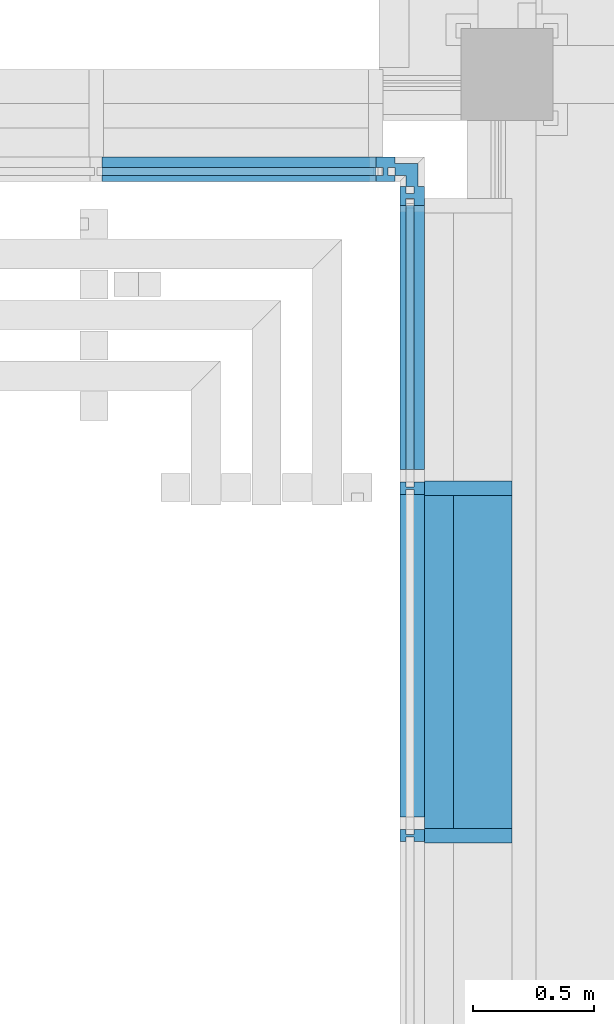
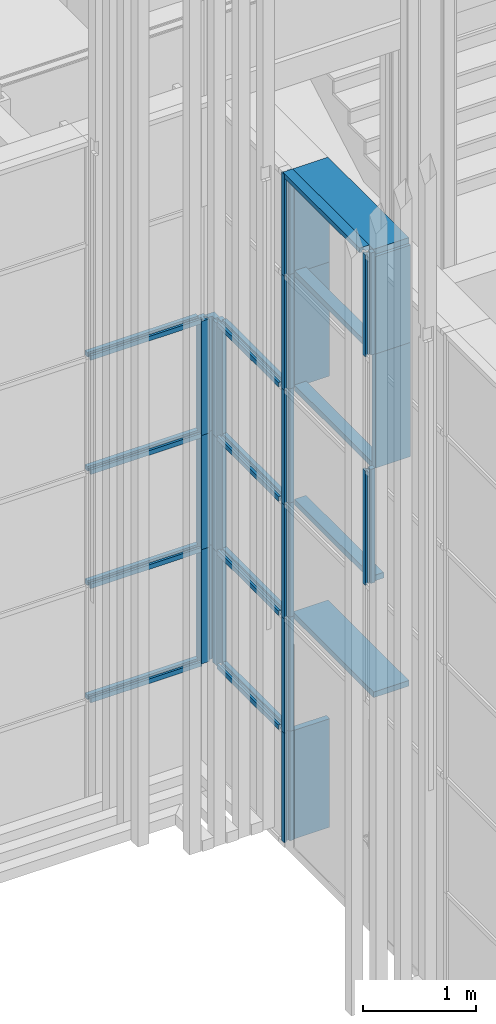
# One storey, part 21 of 260: 30 members, 2 elements without a shape of their own.
"""IFC2X3 building model written with IfcOpenShell, lengths in millimetres."""

import ifcopenshell
import ifcopenshell.guid

model = None  # the IFC model being written
_history = None  # IfcOwnerHistory: only IFC2X3 demands one
_inside = {}  # id of a spatial element -> (the spatial element, [elements in it])
_under = {}  # id of a project, library or spatial element -> (it, [spatial elements below it])
_declared = {}  # id of a project -> (the project, [libraries it declares])
_typed = {}  # id of a type object -> (the type object, [elements of that type])
_made_of = {}  # id of a material, layer set ... -> (it, [elements and type objects made of it])


def new_model(schema):
    """Start an empty IFC model of exactly this schema.

    Asked for "IFC4X3", IfcOpenShell would pick the latest addendum, in which some entities
    have other attributes; the version numbers below select the first issue.
    IFC2X3 requires an IfcOwnerHistory on every rooted entity: one is made here for all.
    """
    global model, _history
    if schema == "IFC4X3":
        model = ifcopenshell.file(schema_version=(4, 3, 0, 0))
    else:
        model = ifcopenshell.file(schema=schema)
    _inside.clear()
    _under.clear()
    _declared.clear()
    _typed.clear()
    _made_of.clear()
    _history = None
    if model.schema == "IFC2X3":
        org = make("IfcOrganization", Name="unknown")
        user = make(
            "IfcPersonAndOrganization",
            ThePerson=make("IfcPerson", FamilyName="unknown"),
            TheOrganization=org,
        )
        app = make(
            "IfcApplication",
            ApplicationDeveloper=org,
            Version="unknown",
            ApplicationFullName="unknown",
            ApplicationIdentifier="unknown",
        )
        _history = make(
            "IfcOwnerHistory",
            OwningUser=user,
            OwningApplication=app,
            ChangeAction="ADDED",
            CreationDate=0,
        )
    return model


def make(cls, **values):
    """One entity of the class cls with the attributes given. An attribute that is None is left unset."""
    return model.create_entity(
        cls, **{name: value for name, value in values.items() if value is not None}
    )


def entity(cls, *values):
    """Any entity or typed value of the class cls, its attributes in the order of the schema. None: left unset."""
    e = model.create_entity(cls)
    for i, value in enumerate(values):
        if value is not None:
            e[i] = value
    return e


def rooted(cls, **values):
    """An entity with a GlobalId (a new one), such as an element, a storey or a relation."""
    return make(cls, GlobalId=ifcopenshell.guid.new(), OwnerHistory=_history, **values)


def si_unit(unit_type, name, prefix=None):
    """IfcSIUnit, for example si_unit("LENGTHUNIT", "METRE", prefix="MILLI")."""
    return make("IfcSIUnit", UnitType=unit_type, Prefix=prefix, Name=name)


def converted_unit(unit_type, name, factor, base, dimensions=None, offset=None):
    """IfcConversionBasedUnit, such as the inch: factor (a typed value) times the base unit."""
    return make(
        "IfcConversionBasedUnit"
        if offset is None
        else "IfcConversionBasedUnitWithOffset",
        ConversionOffset=offset,
        Dimensions=None
        if dimensions is None
        else entity("IfcDimensionalExponents", *dimensions),
        UnitType=unit_type,
        Name=name,
        ConversionFactor=make(
            "IfcMeasureWithUnit", ValueComponent=factor, UnitComponent=base
        ),
    )


def derived_unit(unit_type, elements):
    """IfcDerivedUnit: a product of units, each with its exponent."""
    return make(
        "IfcDerivedUnit",
        Elements=[
            make("IfcDerivedUnitElement", Unit=unit, Exponent=power)
            for unit, power in elements
        ],
        UnitType=unit_type,
    )


def money_unit(currency):
    """IfcMonetaryUnit."""
    return make("IfcMonetaryUnit", Currency=currency)


def assignment(units):
    """IfcUnitAssignment: the units of a project."""
    return None if units is None else make("IfcUnitAssignment", Units=units)


def point(xyz):
    """IfcCartesianPoint."""
    return None if xyz is None else make("IfcCartesianPoint", Coordinates=xyz)


def direction(xyz):
    """IfcDirection."""
    return None if xyz is None else make("IfcDirection", DirectionRatios=xyz)


def frame(location, z_axis=None, x_axis=None):
    """IfcAxis2Placement3D, a coordinate frame: its origin and axes. An axis left out is left unset."""
    return make(
        "IfcAxis2Placement3D",
        Location=point(location),
        Axis=direction(z_axis),
        RefDirection=direction(x_axis),
    )


def origin_with_axes():
    """The frame at (0, 0, 0) with the z axis (0, 0, 1) and the x axis (1, 0, 0) written out."""
    return frame((0.0, 0.0, 0.0), z_axis=(0.0, 0.0, 1.0), x_axis=(1.0, 0.0, 0.0))


def place(relative_to, where):
    """IfcLocalPlacement: puts the frame where relative to a parent placement (None: the world)."""
    return make(
        "IfcLocalPlacement", PlacementRelTo=relative_to, RelativePlacement=where
    )


def context(
    kind, dimensions, precision=None, world=None, true_north=None, identifier=None
):
    """IfcGeometricRepresentationContext, for example the 3D "Model" context."""
    return make(
        "IfcGeometricRepresentationContext",
        ContextIdentifier=identifier,
        ContextType=kind,
        CoordinateSpaceDimension=dimensions,
        Precision=precision,
        WorldCoordinateSystem=world,
        TrueNorth=true_north,
    )


def subcontext(parent, identifier, kind, view, scale=None):
    """IfcGeometricRepresentationSubContext, for example "Body" below "Model"."""
    return make(
        "IfcGeometricRepresentationSubContext",
        ContextIdentifier=identifier,
        ContextType=kind,
        ParentContext=parent,
        TargetScale=scale,
        TargetView=view,
    )


def project(units=None, contexts=None):
    """IfcProject with its units and contexts."""
    return rooted(
        "IfcProject",
        Name="project",
        RepresentationContexts=contexts,
        UnitsInContext=assignment(units),
    )


def spatial(cls, under=None, at=None, **own):
    """A site, building, storey or space (cls), placed at a placement, below another one or the project."""
    s = rooted(cls, ObjectPlacement=at, **own)
    if under is not None:
        _under.setdefault(under.id(), (under, []))[1].append(s)
    return s


def faces_of(points, faces, orient=None, outer=None):
    """IfcFace entities. A face is a list of loops; a loop is a list of indices into points, from 0.

    orient and outer hold one flag for each loop. By default every Orientation is true, the
    first loop of a face is its IfcFaceOuterBound and the others are IfcFaceBound.
    """
    made = []
    for i, loops in enumerate(faces):
        bounds = []
        for j, loop in enumerate(loops):
            is_outer = j == 0 if outer is None else outer[i][j]
            bounds.append(
                make(
                    "IfcFaceOuterBound" if is_outer else "IfcFaceBound",
                    Bound=make("IfcPolyLoop", Polygon=[points[k] for k in loop]),
                    Orientation=True if orient is None else orient[i][j],
                )
            )
        made.append(make("IfcFace", Bounds=bounds))
    return made


def faceted_brep(points, faces, orient=None, outer=None, voids=None):
    """IfcFacetedBrep: a solid bounded by flat faces; with voids (closed shells), ...WithVoids."""
    shared = [point(p) for p in points]
    hull = make("IfcClosedShell", CfsFaces=faces_of(shared, faces, orient, outer))
    if voids is None:
        return make("IfcFacetedBrep", Outer=hull)
    return make(
        "IfcFacetedBrepWithVoids",
        Outer=hull,
        Voids=[
            make(cls, CfsFaces=faces_of(shared, fs, o, b)) for cls, fs, o, b in voids
        ],
    )


def shape(context_of_items, identifier, shape_type, items):
    """IfcShapeRepresentation: the items that make up one representation, for example the "Body"."""
    return make(
        "IfcShapeRepresentation",
        ContextOfItems=context_of_items,
        RepresentationIdentifier=identifier,
        RepresentationType=shape_type,
        Items=items,
    )


def source(mapping_origin, context_of_items, identifier, shape_type, items):
    """IfcRepresentationMap: a shape defined once, which mapped items show again and again."""
    return make(
        "IfcRepresentationMap",
        MappingOrigin=mapping_origin,
        MappedRepresentation=shape(context_of_items, identifier, shape_type, items),
    )


def transform(
    local_origin,
    x_axis=None,
    y_axis=None,
    z_axis=None,
    scale=None,
    scale2=None,
    scale3=None,
    uniform=True,
):
    """IfcCartesianTransformationOperator3D, or its non-uniform kind. x_axis, y_axis, z_axis: its Axis1, 2, 3."""
    if uniform:
        return make(
            "IfcCartesianTransformationOperator3D",
            Axis1=direction(x_axis),
            Axis2=direction(y_axis),
            LocalOrigin=point(local_origin),
            Scale=scale,
            Axis3=direction(z_axis),
        )
    return make(
        "IfcCartesianTransformationOperator3DnonUniform",
        Axis1=direction(x_axis),
        Axis2=direction(y_axis),
        LocalOrigin=point(local_origin),
        Scale=scale,
        Axis3=direction(z_axis),
        Scale2=scale2,
        Scale3=scale3,
    )


def mapped(mapping_source, mapping_target):
    """IfcMappedItem: shows the shape of a source again, moved by a transform."""
    return make(
        "IfcMappedItem", MappingSource=mapping_source, MappingTarget=mapping_target
    )


def material(Name=None, Category=None):
    """IfcMaterial."""
    return make("IfcMaterial", Name=Name, Category=Category)


def made_of(thing, what):
    """Note that an element or type object is made of a material, layer set ...; save() writes the relation."""
    if what is not None:
        _made_of.setdefault(what.id(), (what, []))[1].append(thing)
    return thing


def type_object(cls, material=None, **own):
    """A type object (cls), such as IfcWallType, which elements share."""
    return made_of(rooted(cls, **own), material)


def element(
    cls,
    number,
    at=None,
    inside=None,
    cuts=None,
    type_object=None,
    material=None,
    context=None,
    identifier="Body",
    shape_type=None,
    held_by="IfcProductDefinitionShape",
    body=None,
    shapes=None,
    **own,
):
    """One element of the class cls, such as IfcWall. Its Tag is "e" and its number.

    at: its placement. inside: the storey or other place that contains it. cuts: it is an
    opening in that element (IfcRelVoidsElement). A single representation is given by context,
    identifier, shape_type and body (its items); several are given by shapes. held_by: the class
    of the entity that holds the representations. save() writes the other relations.
    """
    e = rooted(cls, Tag="e%d" % number, ObjectPlacement=at, **own)
    if body is not None:
        shapes = [shape(context, identifier, shape_type, body)]
    if shapes is not None:
        e.Representation = make(held_by, Representations=shapes)
    if inside is not None:
        _inside.setdefault(inside.id(), (inside, []))[1].append(e)
    if cuts is not None:
        rooted(
            "IfcRelVoidsElement", RelatingBuildingElement=cuts, RelatedOpeningElement=e
        )
    if type_object is not None:
        _typed.setdefault(type_object.id(), (type_object, []))[1].append(e)
    return made_of(e, material)


def aggregate(whole, parts):
    """IfcRelAggregates: a whole, such as a stair, and the parts it consists of."""
    return rooted("IfcRelAggregates", RelatingObject=whole, RelatedObjects=parts)


def save(model, path):
    """Write the relations noted so far, then the file.

    IfcRelAggregates (storeys below a building ...), IfcRelContainedInSpatialStructure (elements
    in a storey), IfcRelDefinesByType, IfcRelAssociatesMaterial and IfcRelDeclares: one each for
    every whole, place, type object, material and project.
    """
    for whole, parts in _under.values():
        aggregate(whole, parts)
    for where, things in _inside.values():
        rooted(
            "IfcRelContainedInSpatialStructure",
            RelatedElements=things,
            RelatingStructure=where,
        )
    for kind, things in _typed.values():
        rooted("IfcRelDefinesByType", RelatedObjects=things, RelatingType=kind)
    for what, things in _made_of.values():
        rooted("IfcRelAssociatesMaterial", RelatedObjects=things, RelatingMaterial=what)
    for by, libraries in _declared.values():
        rooted("IfcRelDeclares", RelatingContext=by, RelatedDefinitions=libraries)
    model.write(path)


model = new_model("IFC2X3")

# Units and contexts
model_context = context("Model", 3, precision=0.01, world=origin_with_axes(), true_north=direction((0.0, 1.0)))
body_context = subcontext(model_context, "Body", "Model", "MODEL_VIEW")
ifc_project = project(units=[si_unit("LENGTHUNIT", "METRE", prefix="MILLI"), si_unit("AREAUNIT", "SQUARE_METRE"), si_unit("VOLUMEUNIT", "CUBIC_METRE"), converted_unit("PLANEANGLEUNIT", "DEGREE", entity("IfcPlaneAngleMeasure", 0.0174532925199), si_unit("PLANEANGLEUNIT", "RADIAN"), dimensions=[0, 0, 0, 0, 0, 0, 0]), money_unit("EUR"), converted_unit("TIMEUNIT", "Year", entity("IfcTimeMeasure", 31556926.0), si_unit("TIMEUNIT", "SECOND"), dimensions=[0, 0, 1, 0, 0, 0, 0]), si_unit("MASSUNIT", "GRAM", prefix="KILO"), si_unit("THERMODYNAMICTEMPERATUREUNIT", "DEGREE_CELSIUS"), si_unit("LUMINOUSINTENSITYUNIT", "LUMEN"), si_unit("ENERGYUNIT", "JOULE", prefix="MEGA"), derived_unit("THERMALCONDUCTANCEUNIT", [(si_unit("POWERUNIT", "WATT"), 1), (si_unit("LENGTHUNIT", "METRE"), -1), (si_unit("THERMODYNAMICTEMPERATUREUNIT", "KELVIN"), -1)]), derived_unit("SPECIFICHEATCAPACITYUNIT", [(si_unit("ENERGYUNIT", "JOULE"), 1), (si_unit("MASSUNIT", "GRAM", prefix="KILO"), -1), (si_unit("THERMODYNAMICTEMPERATUREUNIT", "KELVIN"), -1)]), derived_unit("MASSDENSITYUNIT", [(si_unit("MASSUNIT", "GRAM", prefix="KILO"), 1), (si_unit("VOLUMEUNIT", "CUBIC_METRE"), -1)])], contexts=[model_context])

# Site, building, storey
site_placement = place(None, origin_with_axes())
site = spatial("IfcSite", under=ifc_project, at=site_placement, Name="Kolde pst 67a", CompositionType="ELEMENT")
building_placement = place(site_placement, origin_with_axes())
building = spatial("IfcBuilding", under=site, at=building_placement, Name="Riigigümnaasium", CompositionType="ELEMENT")
storey_placement = place(building_placement, origin_with_axes())
storey = spatial("IfcBuildingStorey", under=building, at=storey_placement, Name="1. korrus", CompositionType="ELEMENT", Elevation=0.0)

# Curtain wall, members
curtain_wall_type = type_object("IfcCurtainWallType", Name="Curtain Wall Type", PredefinedType="NOTDEFINED")
curtain_wall_1_placement = place(storey_placement, frame((47829.9854655, 8727.77020058, -0.000749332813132), z_axis=(0.0, 0.0, 1.0), x_axis=(1.0, 0.0, 0.0)))
curtain_wall_1 = element("IfcCurtainWall", 1, at=curtain_wall_1_placement, inside=storey, type_object=curtain_wall_type, Name="KLAASFASSAAD")
ifc_material_1 = material(Name="_METALL - alumiinium")
member_type_1 = type_object("IfcMemberType", Name="Transom Frame 50 x 100", PredefinedType="MEMBER")
shared_shape_1 = source(origin_with_axes(), body_context, "Body", "Brep", [
    faceted_brep([(5.0, -16.5, 1086.19086012), (5.0, 16.5, 1086.19086012), (25.0, 16.5, 1086.19086012), (25.0, 40.0, 1086.19086012), (-25.0, 40.0, 1086.19086012), (-25.0, 16.5, 1086.19086012), (-5.0, 16.5, 1086.19086012), (-5.0, -16.5, 1086.19086012), (-25.0, -16.5, 1086.19086012), (-25.0, -60.0, 1086.19086012), (25.0, -60.0, 1086.19086012), (25.0, -16.5, 1086.19086012), (5.0, -16.5, 0.0), (5.0, 16.5, 0.0), (25.0, 16.5, 0.0), (25.0, 40.0, 0.0), (-25.0, 40.0, 0.0), (-25.0, 16.5, 0.0), (-5.0, 16.5, 0.0), (-5.0, -16.5, 0.0), (-25.0, -16.5, 0.0), (-25.0, -60.0, 0.0), (25.0, -60.0, 0.0), (25.0, -16.5, 0.0)], [[[0, 1, 2, 3, 4, 5, 6, 7, 8, 9, 10, 11]], [[0, 12, 13, 1]], [[1, 13, 14, 2]], [[14, 15, 3, 2]], [[3, 15, 16, 4]], [[17, 5, 4, 16]], [[5, 17, 18, 6]], [[7, 6, 18, 19]], [[8, 7, 19, 20]], [[8, 20, 21, 9]], [[9, 21, 22, 10]], [[11, 10, 22, 23]], [[11, 23, 12, 0]], [[13, 12, 23, 22, 21, 20, 19, 18, 17, 16, 15, 14]]]),
])
member_1_placement = place(curtain_wall_1_placement, frame((-1.26496217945e-05, 13876.0390847, 4920.00074933), z_axis=(-9.1161307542e-10, 1.0, 0.0), x_axis=(0.0, 0.0, 1.0)))
member_1 = element("IfcMember", 2, at=member_1_placement, type_object=member_type_1, material=ifc_material_1, Name="RF RAAM HOR-828", ObjectType="MEMBER", context=body_context, shape_type="MappedRepresentation", body=[
    mapped(shared_shape_1, transform((0.0, 0.0, 0.0), x_axis=(-1.0, 0.0, 0.0), y_axis=(0.0, -1.0, 9.11612952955e-10), z_axis=(0.0, 9.11612952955e-10, 1.0))),
])
member_2_placement = place(curtain_wall_1_placement, frame((-1.26496217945e-05, 13876.0390847, 3690.00074933), z_axis=(-9.1161307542e-10, 1.0, 0.0), x_axis=(0.0, 0.0, 1.0)))
member_2 = element("IfcMember", 3, at=member_2_placement, type_object=member_type_1, material=ifc_material_1, Name="RF RAAM HOR-829", ObjectType="MEMBER", context=body_context, shape_type="MappedRepresentation", body=[
    mapped(shared_shape_1, transform((0.0, 0.0, 0.0), x_axis=(-1.0, 0.0, 0.0), y_axis=(0.0, -1.0, 9.11612952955e-10), z_axis=(0.0, 9.11612952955e-10, 1.0))),
])
member_3_placement = place(curtain_wall_1_placement, frame((-1.26496217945e-05, 13876.0390847, 2460.00074933), z_axis=(-9.1161307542e-10, 1.0, 0.0), x_axis=(0.0, 0.0, 1.0)))
member_3 = element("IfcMember", 4, at=member_3_placement, type_object=member_type_1, material=ifc_material_1, Name="RF RAAM HOR-830", ObjectType="MEMBER", context=body_context, shape_type="MappedRepresentation", body=[
    mapped(shared_shape_1, transform((0.0, 0.0, 0.0), x_axis=(-1.0, 0.0, 0.0), y_axis=(0.0, -1.0, 9.11612952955e-10), z_axis=(0.0, 9.11612952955e-10, 1.0))),
])
member_4_placement = place(curtain_wall_1_placement, frame((-1.26496217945e-05, 13876.0390847, 1230.00074933), z_axis=(-9.1161307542e-10, 1.0, 0.0), x_axis=(0.0, 0.0, 1.0)))
member_4 = element("IfcMember", 5, at=member_4_placement, type_object=member_type_1, material=ifc_material_1, Name="RF RAAM HOR-831", ObjectType="MEMBER", context=body_context, shape_type="MappedRepresentation", body=[
    mapped(shared_shape_1, transform((0.0, 0.0, 0.0), x_axis=(-1.0, 0.0, 0.0), y_axis=(0.0, -1.0, 9.11612952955e-10), z_axis=(0.0, 9.11612952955e-10, 1.0))),
])
member_type_2 = type_object("IfcMemberType", Name="Corner Frame 80 x 100", PredefinedType="MEMBER")
shared_shape_2 = source(origin_with_axes(), body_context, "Body", "Brep", [
    faceted_brep([(89.4493850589, 66.113973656, 0.0), (66.1149944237, 89.4486305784, 0.0), (66.1149944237, 89.4486305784, 1230.0), (89.4493850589, 66.113973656, 1230.0), (75.3071687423, 51.9719187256, 0.0), (51.9727781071, 75.306575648, 0.0), (51.9727781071, 75.306575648, 1230.0), (75.3071687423, 51.9719187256, 1230.0)], [[[0, 1, 2, 3]], [[0, 4, 5, 1]], [[1, 5, 6, 2]], [[3, 2, 6, 7]], [[4, 0, 3, 7]], [[5, 4, 7, 6]]]),
    faceted_brep([(141.421679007, 56.5677355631, 0.0), (110.662709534, 87.3270560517, 0.0), (110.662709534, 87.3270560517, 1230.0), (141.421679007, 56.5677355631, 1230.0), (84.852813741, -0.00048415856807, 0.0), (54.0938442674, 30.75883633, 0.0), (54.0938442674, 30.75883633, 1230.0), (84.852813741, -0.00048415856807, 1230.0)], [[[0, 1, 2, 3]], [[0, 4, 5, 1]], [[1, 5, 6, 2]], [[3, 2, 6, 7]], [[4, 0, 3, 7]], [[5, 4, 7, 6]]]),
    faceted_brep([(14.142539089, 70.7105974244, 0.0), (30.7594536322, 54.0934932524, 0.0), (30.7594536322, 54.0934932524, 1230.0), (14.142539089, 70.7105974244, 1230.0), (70.7114043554, 127.278817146, 0.0), (87.3283188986, 110.661712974, 0.0), (87.3283188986, 110.661712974, 1230.0), (70.7114043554, 127.278817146, 1230.0)], [[[0, 1, 2, 3]], [[0, 4, 5, 1]], [[1, 5, 6, 2]], [[3, 2, 6, 7]], [[4, 0, 3, 7]], [[5, 4, 7, 6]]]),
    faceted_brep([(-30.7594536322, 54.0934932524, 0.0), (-35.0020701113, 49.8508283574, 0.0), (-35.0020701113, 49.8508283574, 1230.0), (-30.7594536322, 54.0934932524, 1230.0), (0.0, 23.3343906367, 0.0), (30.7594536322, 54.0934932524, 0.0), (35.0020701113, 49.8508283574, 0.0), (0.0, 14.8491576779, 0.0), (0.0, 14.8491576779, 1230.0), (35.0020701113, 49.8508283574, 1230.0), (30.7594536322, 54.0934932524, 1230.0), (0.0, 23.3343906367, 1230.0)], [[[0, 1, 2, 3]], [[0, 4, 5, 6, 7, 1]], [[1, 7, 8, 2]], [[3, 2, 8, 9, 10, 11]], [[4, 0, 3, 11]], [[5, 4, 11, 10]], [[6, 5, 10, 9]], [[7, 6, 9, 8]]]),
    faceted_brep([(-57.6293095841, 18.7380008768, 0.0), (-30.7594052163, 45.6082118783, 0.0), (-30.7594052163, 45.6082118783, 1230.0), (-57.6293095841, 18.7380008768, 1230.0), (0.0, -38.8906510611, 0.0), (57.6293095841, 18.7380008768, 0.0), (30.7594052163, 45.6082118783, 0.0), (35.0020701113, 49.8508283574, 0.0), (66.1145909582, 18.7379524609, 0.0), (0.0, -47.3758840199, 0.0), (-66.1145909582, 18.7379524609, 0.0), (-35.0020701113, 49.8508283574, 0.0), (-35.0020701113, 49.8508283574, 1230.0), (-66.1145909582, 18.7379524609, 1230.0), (0.0, -47.3758840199, 1230.0), (66.1145909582, 18.7379524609, 1230.0), (35.0020701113, 49.8508283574, 1230.0), (30.7594052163, 45.6082118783, 1230.0), (57.6293095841, 18.7380008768, 1230.0), (0.0, -38.8906510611, 1230.0)], [[[0, 1, 2, 3]], [[0, 4, 5, 6, 7, 8, 9, 10, 11, 1]], [[1, 11, 12, 2]], [[3, 2, 12, 13, 14, 15, 16, 17, 18, 19]], [[4, 0, 3, 19]], [[5, 4, 19, 18]], [[6, 5, 18, 17]], [[7, 6, 17, 16]], [[8, 7, 16, 15]], [[9, 8, 15, 14]], [[10, 9, 14, 13]], [[11, 10, 13, 12]]]),
    faceted_brep([(-30.7594052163, 45.6082118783, 0.0), (-57.6293095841, 18.7380008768, 0.0), (-57.6293095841, 18.7380008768, 1230.0), (-30.7594052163, 45.6082118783, 1230.0), (0.0, 14.8491576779, 0.0), (30.7594052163, 45.6082118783, 0.0), (57.6293095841, 18.7380008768, 0.0), (0.0, -38.8906510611, 0.0), (0.0, -38.8906510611, 1230.0), (57.6293095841, 18.7380008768, 1230.0), (30.7594052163, 45.6082118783, 1230.0), (0.0, 14.8491576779, 1230.0)], [[[0, 1, 2, 3]], [[0, 4, 5, 6, 7, 1]], [[1, 7, 8, 2]], [[3, 2, 8, 9, 10, 11]], [[4, 0, 3, 11]], [[5, 4, 11, 10]], [[6, 5, 10, 9]], [[7, 6, 9, 8]]]),
    faceted_brep([(-75.3071687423, 51.9719187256, 0.0), (-51.9727781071, 75.306575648, 0.0), (-51.9727781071, 75.306575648, 1230.0), (-75.3071687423, 51.9719187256, 1230.0), (-89.4493850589, 66.113973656, 0.0), (-66.1149944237, 89.4486305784, 0.0), (-66.1149944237, 89.4486305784, 1230.0), (-89.4493850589, 66.113973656, 1230.0)], [[[0, 1, 2, 3]], [[0, 4, 5, 1]], [[1, 5, 6, 2]], [[3, 2, 6, 7]], [[4, 0, 3, 7]], [[5, 4, 7, 6]]]),
    faceted_brep([(-84.852813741, -0.00048415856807, 0.0), (-54.0938442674, 30.75883633, 0.0), (-54.0938442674, 30.75883633, 1230.0), (-84.852813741, -0.00048415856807, 1230.0), (-141.421679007, 56.5677355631, 0.0), (-110.662709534, 87.3270560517, 0.0), (-110.662709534, 87.3270560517, 1230.0), (-141.421679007, 56.5677355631, 1230.0)], [[[0, 1, 2, 3]], [[0, 4, 5, 1]], [[1, 5, 6, 2]], [[3, 2, 6, 7]], [[4, 0, 3, 7]], [[5, 4, 7, 6]]]),
    faceted_brep([(-70.7114043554, 127.278817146, 0.0), (-87.3283188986, 110.661712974, 0.0), (-87.3283188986, 110.661712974, 1230.0), (-70.7114043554, 127.278817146, 1230.0), (-14.142539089, 70.7105974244, 0.0), (-30.7594536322, 54.0934932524, 0.0), (-30.7594536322, 54.0934932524, 1230.0), (-14.142539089, 70.7105974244, 1230.0)], [[[0, 1, 2, 3]], [[0, 4, 5, 1]], [[1, 5, 6, 2]], [[3, 2, 6, 7]], [[4, 0, 3, 7]], [[5, 4, 7, 6]]]),
])
member_5_placement = place(curtain_wall_1_placement, frame((-1.37674334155e-05, 15102.2299448, 1230.00074933), z_axis=(0.0, 0.0, 1.0), x_axis=(0.707102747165, -0.707110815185, 0.0)))
member_5 = element("IfcMember", 6, at=member_5_placement, type_object=member_type_2, material=ifc_material_1, Name="RF RAAM NURK-953", ObjectType="MEMBER", context=body_context, shape_type="MappedRepresentation", body=[
    mapped(shared_shape_2, transform((0.0, 0.0, 0.0), x_axis=(-1.0, 0.0, 0.0), y_axis=(0.0, -1.0, 0.0), z_axis=(0.0, 0.0, 1.0))),
])
member_6_placement = place(curtain_wall_1_placement, frame((-1.37674334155e-05, 15102.2299448, 2460.00074933), z_axis=(0.0, 0.0, 1.0), x_axis=(0.707102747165, -0.707110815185, 0.0)))
member_6 = element("IfcMember", 7, at=member_6_placement, type_object=member_type_2, material=ifc_material_1, Name="RF RAAM NURK-954", ObjectType="MEMBER", context=body_context, shape_type="MappedRepresentation", body=[
    mapped(shared_shape_2, transform((0.0, 0.0, 0.0), x_axis=(-1.0, 0.0, 0.0), y_axis=(0.0, -1.0, 0.0), z_axis=(0.0, 0.0, 1.0))),
])
member_7_placement = place(curtain_wall_1_placement, frame((-1.37674334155e-05, 15102.2299448, 3690.00074933), z_axis=(0.0, 0.0, 1.0), x_axis=(0.707102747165, -0.707110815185, 0.0)))
member_7 = element("IfcMember", 8, at=member_7_placement, type_object=member_type_2, material=ifc_material_1, Name="RF RAAM NURK-955", ObjectType="MEMBER", context=body_context, shape_type="MappedRepresentation", body=[
    mapped(shared_shape_2, transform((0.0, 0.0, 0.0), x_axis=(-1.0, 0.0, 0.0), y_axis=(0.0, -1.0, 0.0), z_axis=(0.0, 0.0, 1.0))),
])
shared_shape_3 = source(origin_with_axes(), body_context, "Body", "Brep", [
    faceted_brep([(5.0, -16.5, 1267.41505055), (5.0, 16.5, 1267.41505055), (25.0, 16.5, 1267.41505055), (25.0, 40.0, 1267.41505055), (-25.0, 40.0, 1267.41505055), (-25.0, 16.5, 1267.41505055), (-5.0, 16.5, 1267.41505055), (-5.0, -16.5, 1267.41505055), (-25.0, -16.5, 1267.41505055), (-25.0, -60.0, 1267.41505055), (25.0, -60.0, 1267.41505055), (25.0, -16.5, 1267.41505055), (5.0, -16.5, 140.0), (5.0, 16.5, 140.0), (25.0, 16.5, 140.0), (25.0, 40.0, 140.0), (-25.0, 40.0, 140.0), (-25.0, 16.5, 140.0), (-5.0, 16.5, 140.0), (-5.0, -16.5, 140.0), (-25.0, -16.5, 140.0), (-25.0, -60.0, 140.0), (25.0, -60.0, 140.0), (25.0, -16.5, 140.0)], [[[0, 1, 2, 3, 4, 5, 6, 7, 8, 9, 10, 11]], [[0, 12, 13, 1]], [[1, 13, 14, 2]], [[14, 15, 3, 2]], [[4, 3, 15, 16]], [[17, 5, 4, 16]], [[5, 17, 18, 6]], [[7, 6, 18, 19]], [[8, 7, 19, 20]], [[8, 20, 21, 9]], [[10, 9, 21, 22]], [[11, 10, 22, 23]], [[11, 23, 12, 0]], [[13, 12, 23, 22, 21, 20, 19, 18, 17, 16, 15, 14]]]),
])
member_8_placement = place(curtain_wall_1_placement, frame((-1.37674334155e-05, 15102.2299448, 4920.00074933), z_axis=(-0.999999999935, 1.14108152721e-05, 0.0), x_axis=(0.0, 0.0, 1.0)))
member_8 = element("IfcMember", 9, at=member_8_placement, type_object=member_type_1, material=ifc_material_1, Name="RF RAAM HOR-979", ObjectType="MEMBER", context=body_context, shape_type="MappedRepresentation", body=[
    mapped(shared_shape_3, transform((0.0, 0.0, 0.0), x_axis=(-1.0, 0.0, 0.0), y_axis=(0.0, -1.0, 0.0), z_axis=(0.0, 0.0, 1.0))),
])
member_9_placement = place(curtain_wall_1_placement, frame((-1.37674334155e-05, 15102.2299448, 3690.00074933), z_axis=(-0.999999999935, 1.14108152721e-05, 0.0), x_axis=(0.0, 0.0, 1.0)))
member_9 = element("IfcMember", 10, at=member_9_placement, type_object=member_type_1, material=ifc_material_1, Name="RF RAAM HOR-980", ObjectType="MEMBER", context=body_context, shape_type="MappedRepresentation", body=[
    mapped(shared_shape_3, transform((0.0, 0.0, 0.0), x_axis=(-1.0, 0.0, 0.0), y_axis=(0.0, -1.0, 0.0), z_axis=(0.0, 0.0, 1.0))),
])
member_10_placement = place(curtain_wall_1_placement, frame((-1.37674334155e-05, 15102.2299448, 2460.00074933), z_axis=(-0.999999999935, 1.14108152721e-05, 0.0), x_axis=(0.0, 0.0, 1.0)))
member_10 = element("IfcMember", 11, at=member_10_placement, type_object=member_type_1, material=ifc_material_1, Name="RF RAAM HOR-981", ObjectType="MEMBER", context=body_context, shape_type="MappedRepresentation", body=[
    mapped(shared_shape_3, transform((0.0, 0.0, 0.0), x_axis=(-1.0, 0.0, 0.0), y_axis=(0.0, -1.0, 0.0), z_axis=(0.0, 0.0, 1.0))),
])
member_11_placement = place(curtain_wall_1_placement, frame((-1.37674334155e-05, 15102.2299448, 1230.00074933), z_axis=(-0.999999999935, 1.14108152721e-05, 0.0), x_axis=(0.0, 0.0, 1.0)))
member_11 = element("IfcMember", 12, at=member_11_placement, type_object=member_type_1, material=ifc_material_1, Name="RF RAAM HOR-982", ObjectType="MEMBER", context=body_context, shape_type="MappedRepresentation", body=[
    mapped(shared_shape_3, transform((0.0, 0.0, 0.0), x_axis=(-1.0, 0.0, 0.0), y_axis=(0.0, -1.0, 0.0), z_axis=(0.0, 0.0, 1.0))),
])
member_type_3 = type_object("IfcMemberType", Name="Mullion Frame 50 x 100", PredefinedType="MEMBER")
shared_shape_4 = source(origin_with_axes(), body_context, "Body", "Brep", [
    faceted_brep([(5.0, -16.5, 1230.00046362), (5.0, 16.5, 1230.00046362), (25.0, 16.5, 1230.00046362), (25.0, 40.0, 1230.00046362), (-25.0, 40.0, 1230.00046362), (-25.0, 16.5, 1230.00046362), (-5.0, 16.5, 1230.00046362), (-5.0, -16.5, 1230.00046362), (-25.0, -16.5, 1230.00046362), (-25.0, -60.0, 1230.00046362), (25.0, -60.0, 1230.00046362), (25.0, -16.5, 1230.00046362), (5.0, -16.5, 50.0), (5.0, 16.5, 50.0), (25.0, 16.5, 50.0), (25.0, 40.0, 50.0), (-25.0, 40.0, 50.0), (-25.0, 16.5, 50.0), (-5.0, 16.5, 50.0), (-5.0, -16.5, 50.0), (-25.0, -16.5, 50.0), (-25.0, -60.0, 50.0), (25.0, -60.0, 50.0), (25.0, -16.5, 50.0)], [[[0, 1, 2, 3, 4, 5, 6, 7, 8, 9, 10, 11]], [[0, 12, 13, 1]], [[1, 13, 14, 2]], [[14, 15, 3, 2]], [[4, 3, 15, 16]], [[17, 5, 4, 16]], [[5, 17, 18, 6]], [[7, 6, 18, 19]], [[8, 7, 19, 20]], [[8, 20, 21, 9]], [[10, 9, 21, 22]], [[11, 10, 22, 23]], [[11, 23, 12, 0]], [[13, 12, 23, 22, 21, 20, 19, 18, 17, 16, 15, 14]]]),
])
member_12_placement = place(curtain_wall_1_placement, frame((-1.25791999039e-05, 13798.7910806, 0.0), z_axis=(0.0, 7.09546965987e-09, 1.0), x_axis=(9.1161639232e-10, -1.0, 7.09546965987e-09)))
member_12 = element("IfcMember", 13, at=member_12_placement, type_object=member_type_3, material=ifc_material_1, Name="RF RAAM VERT-946", ObjectType="MEMBER", context=body_context, shape_type="MappedRepresentation", body=[
    mapped(shared_shape_4, transform((0.0, 0.0, 0.0), x_axis=(-1.0, 0.0, 7.09546965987e-09), y_axis=(0.0, -1.0, 0.0), z_axis=(7.09546965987e-09, 0.0, 1.0))),
])
shared_shape_5 = source(origin_with_axes(), body_context, "Body", "Brep", [
    faceted_brep([(5.0, -16.5, 1230.0), (5.0, 16.5, 1230.0), (25.0, 16.5, 1230.0), (25.0, 40.0, 1230.0), (-25.0, 40.0, 1230.0), (-25.0, 16.5, 1230.0), (-5.0, 16.5, 1230.0), (-5.0, -16.5, 1230.0), (-25.0, -16.5, 1230.0), (-25.0, -60.0, 1230.0), (25.0, -60.0, 1230.0), (25.0, -16.5, 1230.0), (5.0, -16.5, 0.0), (5.0, 16.5, 0.0), (25.0, 16.5, 0.0), (25.0, 40.0, 0.0), (-25.0, 40.0, 0.0), (-25.0, 16.5, 0.0), (-5.0, 16.5, 0.0), (-5.0, -16.5, 0.0), (-25.0, -16.5, 0.0), (-25.0, -60.0, 0.0), (25.0, -60.0, 0.0), (25.0, -16.5, 0.0)], [[[0, 1, 2, 3, 4, 5, 6, 7, 8, 9, 10, 11]], [[0, 12, 13, 1]], [[1, 13, 14, 2]], [[14, 15, 3, 2]], [[3, 15, 16, 4]], [[17, 5, 4, 16]], [[5, 17, 18, 6]], [[7, 6, 18, 19]], [[8, 7, 19, 20]], [[8, 20, 21, 9]], [[9, 21, 22, 10]], [[11, 10, 22, 23]], [[11, 23, 12, 0]], [[13, 12, 23, 22, 21, 20, 19, 18, 17, 16, 15, 14]]]),
])
member_13_placement = place(curtain_wall_1_placement, frame((-1.25791999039e-05, 13798.7910893, 4920.00074933), z_axis=(0.0, -1.73241323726e-08, 1.0), x_axis=(9.1161639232e-10, -1.0, -1.73241323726e-08)))
member_13 = element("IfcMember", 14, at=member_13_placement, type_object=member_type_3, material=ifc_material_1, Name="RF RAAM VERT-876", ObjectType="MEMBER", context=body_context, shape_type="MappedRepresentation", body=[
    mapped(shared_shape_5, transform((0.0, 0.0, 0.0), x_axis=(-1.0, 0.0, -1.73241323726e-08), y_axis=(0.0, -1.0, 0.0), z_axis=(-1.73241323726e-08, 0.0, 1.0))),
])
member_14_placement = place(curtain_wall_1_placement, frame((-1.25791999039e-05, 13798.7910893, 2460.00074933), z_axis=(0.0, 0.0, 1.0), x_axis=(9.1161639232e-10, -1.0, 0.0)))
member_14 = element("IfcMember", 15, at=member_14_placement, type_object=member_type_3, material=ifc_material_1, Name="RF RAAM VERT-942", ObjectType="MEMBER", context=body_context, shape_type="MappedRepresentation", body=[
    mapped(shared_shape_5, transform((0.0, 0.0, 0.0), x_axis=(-1.0, 0.0, 0.0), y_axis=(0.0, -1.0, 0.0), z_axis=(0.0, 0.0, 1.0))),
])
member_15_placement = place(curtain_wall_1_placement, frame((-1.25791999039e-05, 13798.7910893, 3690.00074933), z_axis=(0.0, 0.0, 1.0), x_axis=(9.1161639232e-10, -1.0, 0.0)))
member_15 = element("IfcMember", 16, at=member_15_placement, type_object=member_type_3, material=ifc_material_1, Name="RF RAAM VERT-943", ObjectType="MEMBER", context=body_context, shape_type="MappedRepresentation", body=[
    mapped(shared_shape_5, transform((0.0, 0.0, 0.0), x_axis=(-1.0, 0.0, 0.0), y_axis=(0.0, -1.0, 0.0), z_axis=(0.0, 0.0, 1.0))),
])
member_16_placement = place(curtain_wall_1_placement, frame((-1.25791999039e-05, 13798.7910893, 1230.00074933), z_axis=(0.0, 0.0, 1.0), x_axis=(9.1161639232e-10, -1.0, 0.0)))
member_16 = element("IfcMember", 17, at=member_16_placement, type_object=member_type_3, material=ifc_material_1, Name="RF RAAM VERT-945", ObjectType="MEMBER", context=body_context, shape_type="MappedRepresentation", body=[
    mapped(shared_shape_5, transform((0.0, 0.0, 0.0), x_axis=(-1.0, 0.0, 0.0), y_axis=(0.0, -1.0, 0.0), z_axis=(0.0, 0.0, 1.0))),
])
member_17_placement = place(curtain_wall_1_placement, frame((-1.12755955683e-05, 12368.7994636, 3690.00074933), z_axis=(0.0, 0.0, 1.0), x_axis=(9.1161639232e-10, -1.0, 0.0)))
member_17 = element("IfcMember", 18, at=member_17_placement, type_object=member_type_3, material=ifc_material_1, Name="RF RAAM VERT-948", ObjectType="MEMBER", context=body_context, shape_type="MappedRepresentation", body=[
    mapped(shared_shape_5, transform((0.0, 0.0, 0.0), x_axis=(-1.0, 0.0, 0.0), y_axis=(0.0, -1.0, 0.0), z_axis=(0.0, 0.0, 1.0))),
])
member_type_4 = type_object("IfcMemberType", Name="Boundary Frame 50 x 100", PredefinedType="MEMBER")
shared_shape_6 = source(origin_with_axes(), body_context, "Body", "Brep", [
    faceted_brep([(-30.0, -16.5, 1352.75197298), (-50.0, -16.5, 1352.75197298), (-50.0, -60.0, 1352.75197298), (0.0, -60.0, 1352.75197298), (0.0, 40.0, 1352.75197298), (-50.0, 40.0, 1352.75197298), (-50.0, 16.5, 1352.75197298), (-30.0, 16.5, 1352.75197298), (-30.0, -16.5, 0.0), (-50.0, -16.5, 0.0), (-50.0, -60.0, 0.0), (0.0, -60.0, 0.0), (0.0, 40.0, 0.0), (-50.0, 40.0, 0.0), (-50.0, 16.5, 0.0), (-30.0, 16.5, 0.0)], [[[0, 1, 2, 3, 4, 5, 6, 7]], [[0, 8, 9, 1]], [[9, 10, 2, 1]], [[10, 11, 3, 2]], [[11, 12, 4, 3]], [[12, 13, 5, 4]], [[6, 5, 13, 14]], [[14, 15, 7, 6]], [[7, 15, 8, 0]], [[8, 15, 14, 13, 12, 11, 10, 9]]]),
])
member_18_placement = place(curtain_wall_1_placement, frame((-1.25791999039e-05, 13798.7910805, 7259.99994321), z_axis=(9.11615399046e-10, -1.0, 0.0), x_axis=(0.0, 0.0, -1.0)))
member_18 = element("IfcMember", 19, at=member_18_placement, type_object=member_type_4, material=ifc_material_1, Name="RF RAAM SERV-572", ObjectType="MEMBER", context=body_context, shape_type="MappedRepresentation", body=[
    mapped(shared_shape_6, transform((0.0, 0.0, 0.0), x_axis=(-1.0, 0.0, 0.0), y_axis=(0.0, -1.0, -9.11615399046e-10), z_axis=(0.0, -9.11615399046e-10, 1.0))),
])
shared_shape_7 = source(origin_with_axes(), body_context, "Body", "Brep", [
    faceted_brep([(5.0, -16.5, 1099.99900713), (5.0, 16.5, 1099.99900713), (25.0, 16.5, 1099.99900713), (25.0, 40.0, 1099.99900713), (-25.0, 40.0, 1099.99900713), (-25.0, 16.5, 1099.99900713), (-5.0, 16.5, 1099.99900713), (-5.0, -16.5, 1099.99900713), (-25.0, -16.5, 1099.99900713), (-25.0, -60.0, 1099.99900713), (25.0, -60.0, 1099.99900713), (25.0, -16.5, 1099.99900713), (5.0, -16.5, -4.55870452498e-07), (5.0, 16.5, -4.55870452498e-07), (25.0, 16.5, -4.55870452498e-07), (25.0, 40.0, -4.55870452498e-07), (-25.0, 40.0, -4.55870452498e-07), (-25.0, 16.5, -4.55870452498e-07), (-5.0, 16.5, -4.55870452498e-07), (-5.0, -16.5, -4.55870452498e-07), (-25.0, -16.5, -4.55870452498e-07), (-25.0, -60.0, -4.55870452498e-07), (25.0, -60.0, -4.55870452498e-07), (25.0, -16.5, -4.55870452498e-07)], [[[0, 1, 2, 3, 4, 5, 6, 7, 8, 9, 10, 11]], [[0, 12, 13, 1]], [[1, 13, 14, 2]], [[14, 15, 3, 2]], [[3, 15, 16, 4]], [[17, 5, 4, 16]], [[5, 17, 18, 6]], [[7, 6, 18, 19]], [[8, 7, 19, 20]], [[8, 20, 21, 9]], [[9, 21, 22, 10]], [[11, 10, 22, 23]], [[11, 23, 12, 0]], [[13, 12, 23, 22, 21, 20, 19, 18, 17, 16, 15, 14]]]),
])
member_19_placement = place(curtain_wall_1_placement, frame((-1.12755955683e-05, 12368.7994636, 6150.00074933), z_axis=(0.0, 1.93330982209e-08, 1.0), x_axis=(9.1161639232e-10, -1.0, 1.93330982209e-08)))
member_19 = element("IfcMember", 20, at=member_19_placement, type_object=member_type_3, material=ifc_material_1, Name="RF RAAM VERT-052", ObjectType="MEMBER", context=body_context, shape_type="MappedRepresentation", body=[
    mapped(shared_shape_7, transform((0.0, 0.0, 0.0), x_axis=(-1.0, 0.0, 1.93330982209e-08), y_axis=(0.0, -1.0, 0.0), z_axis=(1.93330982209e-08, 0.0, 1.0))),
])
member_20_placement = place(curtain_wall_1_placement, frame((-1.25791999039e-05, 13798.791068, 6150.00074933), z_axis=(0.0, 1.12332631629e-08, 1.0), x_axis=(9.1161639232e-10, -1.0, 1.12332631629e-08)))
member_20 = element("IfcMember", 21, at=member_20_placement, type_object=member_type_3, material=ifc_material_1, Name="RF RAAM VERT-053", ObjectType="MEMBER", context=body_context, shape_type="MappedRepresentation", body=[
    mapped(shared_shape_7, transform((0.0, 0.0, 0.0), x_axis=(-1.0, 0.0, 1.12332631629e-08), y_axis=(0.0, -1.0, 0.0), z_axis=(1.12332631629e-08, 0.0, 1.0))),
])
aggregate(curtain_wall_1, [member_1, member_2, member_3, member_4, member_5, member_6, member_7, member_8, member_9, member_10, member_11, member_13, member_14, member_15, member_16, member_12, member_17, member_19, member_20, member_18])

curtain_wall_2_placement = place(storey_placement, frame((47889.9854796, 7778.28071079, -0.000681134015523), z_axis=(0.0, 0.0, 1.0), x_axis=(1.0, 0.0, 0.0)))
curtain_wall_2 = element("IfcCurtainWall", 22, at=curtain_wall_2_placement, inside=storey, type_object=curtain_wall_type, Name="Klaasfassaadi puitkarkass")
ifc_material_2 = material(Name="_KANDETARIND - liimpuit vastavalt EK osale")
member_type_5 = type_object("IfcMemberType", Name="Transom Frame 60 x 120", PredefinedType="MEMBER")
shared_shape_8 = source(origin_with_axes(), body_context, "Body", "Brep", [
    faceted_brep([(-30.0, 0.0, 30.0), (-30.0, -120.0, 30.0), (-30.0, -120.0, 1400.0), (-30.0, 0.0, 1400.0), (30.0, 0.0, 30.0), (30.0, -120.0, 30.0), (30.0, -120.0, 1400.0), (30.0, 0.0, 1400.0)], [[[0, 1, 2, 3]], [[1, 0, 4, 5]], [[1, 5, 6, 2]], [[2, 6, 7, 3]], [[4, 0, 3, 7]], [[5, 4, 7, 6]]]),
])
member_21_placement = place(curtain_wall_2_placement, frame((-1.43133576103e-05, 13318.2806351, 3690.00068113), z_axis=(-1.07471327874e-09, 1.0, 0.0), x_axis=(0.0, 0.0, 1.0)))
member_21 = element("IfcMember", 23, at=member_21_placement, type_object=member_type_5, material=ifc_material_2, Name="RF RAAM HOR-249", ObjectType="MEMBER", context=body_context, shape_type="MappedRepresentation", body=[
    mapped(shared_shape_8, transform((0.0, 0.0, 0.0), x_axis=(-1.0, 0.0, 0.0), y_axis=(0.0, -1.0, 1.07471315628e-09), z_axis=(0.0, 1.07471315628e-09, 1.0))),
])
member_22_placement = place(curtain_wall_2_placement, frame((-1.43133576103e-05, 13318.2806351, 4920.00068113), z_axis=(-1.07471327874e-09, 1.0, 0.0), x_axis=(0.0, 0.0, 1.0)))
member_22 = element("IfcMember", 24, at=member_22_placement, type_object=member_type_5, material=ifc_material_2, Name="RF RAAM HOR-249", ObjectType="MEMBER", context=body_context, shape_type="MappedRepresentation", body=[
    mapped(shared_shape_8, transform((0.0, 0.0, 0.0), x_axis=(-1.0, 0.0, 0.0), y_axis=(0.0, -1.0, 1.07471315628e-09), z_axis=(0.0, 1.07471315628e-09, 1.0))),
])
member_23_placement = place(curtain_wall_2_placement, frame((-1.43133576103e-05, 13318.2806351, 6150.00068113), z_axis=(-1.07471327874e-09, 1.0, 0.0), x_axis=(0.0, 0.0, 1.0)))
member_23 = element("IfcMember", 25, at=member_23_placement, type_object=member_type_5, material=ifc_material_2, Name="RF RAAM HOR-249", ObjectType="MEMBER", context=body_context, shape_type="MappedRepresentation", body=[
    mapped(shared_shape_8, transform((0.0, 0.0, 0.0), x_axis=(-1.0, 0.0, 0.0), y_axis=(0.0, -1.0, 1.07471315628e-09), z_axis=(0.0, 1.07471315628e-09, 1.0))),
])
member_type_6 = type_object("IfcMemberType", Name="Mullion Frame 60 x 360", PredefinedType="MEMBER")
shared_shape_9 = source(origin_with_axes(), body_context, "Body", "Brep", [
    faceted_brep([(-30.0, 0.0, 60.0), (-30.0, -360.0, 60.0), (-30.0, -360.0, 1230.0002536), (-30.0, 0.0, 1230.0002536), (30.0, 0.0, 60.0), (30.0, -360.0, 60.0), (30.0, -360.0, 1230.0002536), (30.0, 0.0, 1230.0002536)], [[[0, 1, 2, 3]], [[1, 0, 4, 5]], [[1, 5, 6, 2]], [[2, 6, 7, 3]], [[4, 0, 3, 7]], [[5, 4, 7, 6]]]),
])
member_24_placement = place(curtain_wall_2_placement, frame((-1.58501975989e-05, 14748.2806351, 0.0), z_axis=(0.0, 0.0, 1.0), x_axis=(1.07471574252e-09, -1.0, 0.0)))
member_24 = element("IfcMember", 26, at=member_24_placement, type_object=member_type_6, material=ifc_material_2, Name="RF RAAM VERT-457", ObjectType="MEMBER", context=body_context, shape_type="MappedRepresentation", body=[
    mapped(shared_shape_9, transform((0.0, 0.0, 0.0), x_axis=(-1.0, 0.0, 0.0), y_axis=(0.0, -1.0, 0.0), z_axis=(0.0, 0.0, 1.0))),
])
shared_shape_10 = source(origin_with_axes(), body_context, "Body", "Brep", [
    faceted_brep([(-30.0, -360.0, 0.0), (-30.0, -360.0, 1230.0), (-30.0, 0.0, 1230.0), (-30.0, 0.0, 0.0), (30.0, -360.0, 0.0), (30.0, -360.0, 1230.0), (30.0, 0.0, 1230.0), (30.0, 0.0, 0.0)], [[[0, 1, 2, 3]], [[4, 5, 1, 0]], [[1, 5, 6, 2]], [[3, 2, 6, 7]], [[0, 3, 7, 4]], [[7, 6, 5, 4]]]),
])
member_25_placement = place(curtain_wall_2_placement, frame((-1.43133576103e-05, 13318.2806351, 4920.00068113), z_axis=(0.0, 0.0, 1.0), x_axis=(1.07471327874e-09, -1.0, 0.0)))
member_25 = element("IfcMember", 27, at=member_25_placement, type_object=member_type_6, material=ifc_material_2, Name="RF RAAM VERT-457", ObjectType="MEMBER", context=body_context, shape_type="MappedRepresentation", body=[
    mapped(shared_shape_10, transform((0.0, 0.0, 0.0), x_axis=(-1.0, 0.0, 0.0), y_axis=(0.0, -1.0, 0.0), z_axis=(0.0, 0.0, 1.0))),
])
member_26_placement = place(curtain_wall_2_placement, frame((-1.58501975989e-05, 14748.2806351, 4920.00068113), z_axis=(0.0, 0.0, 1.0), x_axis=(1.07471574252e-09, -1.0, 0.0)))
member_26 = element("IfcMember", 28, at=member_26_placement, type_object=member_type_6, material=ifc_material_2, Name="RF RAAM VERT-457", ObjectType="MEMBER", context=body_context, shape_type="MappedRepresentation", body=[
    mapped(shared_shape_10, transform((0.0, 0.0, 0.0), x_axis=(-1.0, 0.0, 0.0), y_axis=(0.0, -1.0, 0.0), z_axis=(0.0, 0.0, 1.0))),
])
member_type_7 = type_object("IfcMemberType", Name="Boundary Frame 60 x 360", PredefinedType="MEMBER")
shared_shape_11 = source(origin_with_axes(), body_context, "Body", "Brep", [
    faceted_brep([(-60.0, -360.0, 0.0), (-60.0, -360.0, 1430.0), (-60.0, 0.0, 1430.0), (-60.0, 0.0, 0.0), (0.0, -360.0, 0.0), (0.0, -360.0, 1430.0), (0.0, 0.0, 1430.0), (0.0, 0.0, 0.0)], [[[0, 1, 2, 3]], [[4, 5, 1, 0]], [[1, 5, 6, 2]], [[3, 2, 6, 7]], [[0, 3, 7, 4]], [[7, 6, 5, 4]]]),
])
member_27_placement = place(curtain_wall_2_placement, frame((-1.58501975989e-05, 14748.2806351, 7260.00002512), z_axis=(1.07471327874e-09, -1.0, 0.0), x_axis=(0.0, 0.0, -1.0)))
member_27 = element("IfcMember", 29, at=member_27_placement, type_object=member_type_7, material=ifc_material_2, Name="RF RAAM SERV-899", ObjectType="MEMBER", context=body_context, shape_type="MappedRepresentation", body=[
    mapped(shared_shape_11, transform((0.0, 0.0, 0.0), x_axis=(-1.0, 0.0, 0.0), y_axis=(0.0, -1.0, -1.07471327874e-09), z_axis=(0.0, -1.07471327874e-09, 1.0))),
])
shared_shape_12 = source(origin_with_axes(), body_context, "Body", "Brep", [
    faceted_brep([(-30.0, -360.0, 0.0), (-30.0, -360.0, 1430.0), (-30.0, 0.0, 1430.0), (-30.0, 0.0, 0.0), (30.0, -360.0, 0.0), (30.0, -360.0, 1430.0), (30.0, 0.0, 1430.0), (30.0, 0.0, 0.0)], [[[0, 1, 2, 3]], [[4, 5, 1, 0]], [[1, 5, 6, 2]], [[3, 2, 6, 7]], [[0, 3, 7, 4]], [[7, 6, 5, 4]]]),
])
member_28_placement = place(curtain_wall_2_placement, frame((-1.43133576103e-05, 13318.2806351, 2460.00068113), z_axis=(-1.07471327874e-09, 1.0, 0.0), x_axis=(0.0, 0.0, 1.0)))
member_28 = element("IfcMember", 30, at=member_28_placement, type_object=member_type_7, material=ifc_material_2, Name="RF RAAM HOR-249", ObjectType="MEMBER", context=body_context, shape_type="MappedRepresentation", body=[
    mapped(shared_shape_12, transform((0.0, 0.0, 0.0), x_axis=(-1.0, 0.0, 0.0), y_axis=(0.0, -1.0, 1.07471315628e-09), z_axis=(0.0, 1.07471315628e-09, 1.0))),
])
shared_shape_13 = source(origin_with_axes(), body_context, "Body", "Brep", [
    faceted_brep([(-30.0, -360.0, 0.0), (-30.0, -360.0, 1049.99958427), (-30.0, 0.0, 1049.99958755), (-30.0, 0.0, 0.0), (30.0, -360.0, 0.0), (30.0, -360.0, 1049.99958427), (30.0, 0.0, 1049.99958755), (30.0, 0.0, 0.0)], [[[0, 1, 2, 3]], [[4, 5, 1, 0]], [[1, 5, 6, 2]], [[3, 2, 6, 7]], [[0, 3, 7, 4]], [[7, 6, 5, 4]]]),
])
member_29_placement = place(curtain_wall_2_placement, frame((-1.43133576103e-05, 13318.2806351, 6150.00068113), z_axis=(0.0, 0.0, 1.0), x_axis=(1.07471327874e-09, -1.0, 0.0)))
member_29 = element("IfcMember", 31, at=member_29_placement, type_object=member_type_6, material=ifc_material_2, Name="RF RAAM VERT-881", ObjectType="MEMBER", context=body_context, shape_type="MappedRepresentation", body=[
    mapped(shared_shape_13, transform((0.0, 0.0, 0.0), x_axis=(-1.0, 0.0, 0.0), y_axis=(0.0, -1.0, 0.0), z_axis=(0.0, 0.0, 1.0))),
])
member_30_placement = place(curtain_wall_2_placement, frame((-1.58501975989e-05, 14748.2806351, 6150.00068113), z_axis=(0.0, 0.0, 1.0), x_axis=(1.07471574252e-09, -1.0, 0.0)))
member_30 = element("IfcMember", 32, at=member_30_placement, type_object=member_type_6, material=ifc_material_2, Name="RF RAAM VERT-882", ObjectType="MEMBER", context=body_context, shape_type="MappedRepresentation", body=[
    mapped(shared_shape_13, transform((0.0, 0.0, 0.0), x_axis=(-1.0, 0.0, 0.0), y_axis=(0.0, -1.0, 0.0), z_axis=(0.0, 0.0, 1.0))),
])
aggregate(curtain_wall_2, [member_25, member_24, member_26, member_28, member_21, member_22, member_23, member_29, member_27, member_30])

save(model, "model.ifc")
